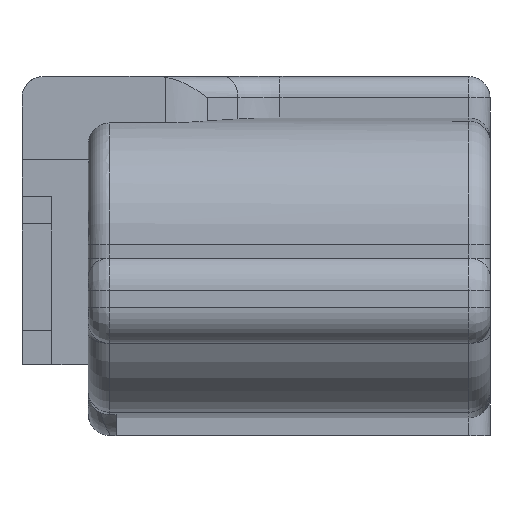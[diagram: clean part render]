
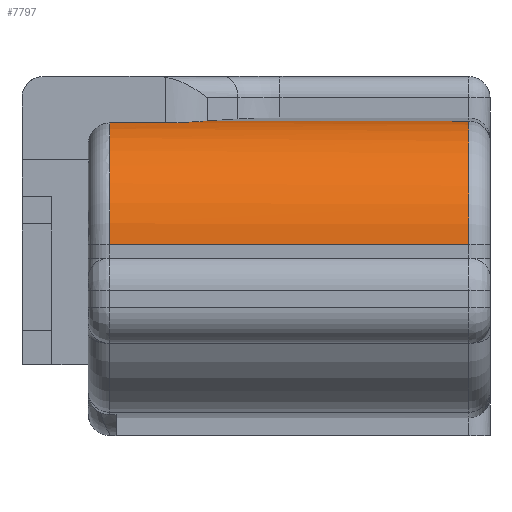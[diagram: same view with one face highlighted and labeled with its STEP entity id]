
A CAD part, front view. The second image highlights one B-rep face of the part: STEP entity #7797.
In plain terms, the highlighted cylindrical face has radius 5.8 mm (diameter 11.6 mm), a partial arc.
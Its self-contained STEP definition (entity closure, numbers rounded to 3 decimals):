
#5600=CARTESIAN_POINT('Vertex',(-15.174,-1.6,7.225)) ;
#5606=CARTESIAN_POINT('Control Point',(-15.174,-1.6,7.225)) ;
#5607=CARTESIAN_POINT('Control Point',(-14.683,-1.6,7.225)) ;
#5608=CARTESIAN_POINT('Control Point',(-14.192,-1.493,7.247)) ;
#5609=CARTESIAN_POINT('Control Point',(-13.737,-1.279,7.286)) ;
#5610=CARTESIAN_POINT('Control Point',(-13.348,-0.98,7.311)) ;
#5611=CARTESIAN_POINT('Vertex',(-13.348,-0.98,7.311)) ;
#6718=CARTESIAN_POINT('Vertex',(-17.8,-1.6,7.225)) ;
#6723=CARTESIAN_POINT('Line Origine',(-16.487,-1.6,7.225)) ;
#6839=CARTESIAN_POINT('Vertex',(-17.8,-6.3,1.53)) ;
#7060=CARTESIAN_POINT('Axis2P3D Location',(-17.8,-0.5,1.53)) ;
#7087=CARTESIAN_POINT('Line Origine',(-9.4,-0.98,7.311)) ;
#7091=CARTESIAN_POINT('Vertex',(-1.,-0.98,7.311)) ;
#7772=CARTESIAN_POINT('Axis2P3D Location',(-9.4,-0.5,1.53)) ;
#7777=CARTESIAN_POINT('Line Origine',(-9.4,-6.3,1.53)) ;
#7781=CARTESIAN_POINT('Vertex',(-1.,-6.3,1.53)) ;
#7784=CARTESIAN_POINT('Axis2P3D Location',(-1.,-0.5,1.53)) ;
#6724=DIRECTION('Vector Direction',(-1.,0.,0.)) ;
#7061=DIRECTION('Axis2P3D Direction',(1.,-0.,0.)) ;
#7088=DIRECTION('Vector Direction',(1.,0.,0.)) ;
#7773=DIRECTION('Axis2P3D Direction',(1.,0.,0.)) ;
#7774=DIRECTION('Axis2P3D XDirection',(0.,-0.083,0.997)) ;
#7778=DIRECTION('Vector Direction',(1.,0.,0.)) ;
#7785=DIRECTION('Axis2P3D Direction',(1.,0.,0.)) ;
#7062=AXIS2_PLACEMENT_3D('Circle Axis2P3D',#7060,#7061,$) ;
#7775=AXIS2_PLACEMENT_3D('Cylinder Axis2P3D',#7772,#7773,#7774) ;
#7786=AXIS2_PLACEMENT_3D('Circle Axis2P3D',#7784,#7785,$) ;
#7790=ORIENTED_EDGE('',*,*,#7093,.F.) ;
#7791=ORIENTED_EDGE('',*,*,#5613,.F.) ;
#7792=ORIENTED_EDGE('',*,*,#6727,.T.) ;
#7793=ORIENTED_EDGE('',*,*,#7064,.T.) ;
#7794=ORIENTED_EDGE('',*,*,#7783,.T.) ;
#7795=ORIENTED_EDGE('',*,*,#7788,.T.) ;
#6725=VECTOR('Line Direction',#6724,1.) ;
#7089=VECTOR('Line Direction',#7088,1.) ;
#7779=VECTOR('Line Direction',#7778,1.) ;
#7797=ADVANCED_FACE('\X2\FF8AFF9FFF70FF82\X0\ \X2\FF8EFF9EFF83FF9EFF68FF70\X0\',(#7796),#7776,.T.) ;
#5605=B_SPLINE_CURVE_WITH_KNOTS('',4,(#5606,#5607,#5608,#5609,#5610),.UNSPECIFIED.,.F.,.U.,(5,5),(0.,2.779),.UNSPECIFIED.) ;
#7063=CIRCLE('generated circle',#7062,5.8) ;
#7787=CIRCLE('generated circle',#7786,5.8) ;
#7776=CYLINDRICAL_SURFACE('generated cylinder',#7775,5.8) ;
#5613=EDGE_CURVE('',#5601,#5612,#5605,.T.) ;
#6727=EDGE_CURVE('',#5601,#6719,#6726,.T.) ;
#7064=EDGE_CURVE('',#6719,#6840,#7063,.T.) ;
#7093=EDGE_CURVE('',#5612,#7092,#7090,.T.) ;
#7783=EDGE_CURVE('',#6840,#7782,#7780,.T.) ;
#7788=EDGE_CURVE('',#7782,#7092,#7787,.F.) ;
#7789=EDGE_LOOP('',(#7790,#7791,#7792,#7793,#7794,#7795)) ;
#7796=FACE_OUTER_BOUND('',#7789,.T.) ;
#6726=LINE('Line',#6723,#6725) ;
#7090=LINE('Line',#7087,#7089) ;
#7780=LINE('Line',#7777,#7779) ;
#5601=VERTEX_POINT('',#5600) ;
#5612=VERTEX_POINT('',#5611) ;
#6719=VERTEX_POINT('',#6718) ;
#6840=VERTEX_POINT('',#6839) ;
#7092=VERTEX_POINT('',#7091) ;
#7782=VERTEX_POINT('',#7781) ;
